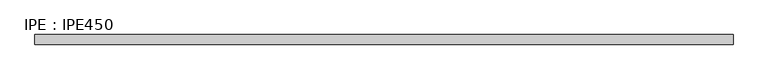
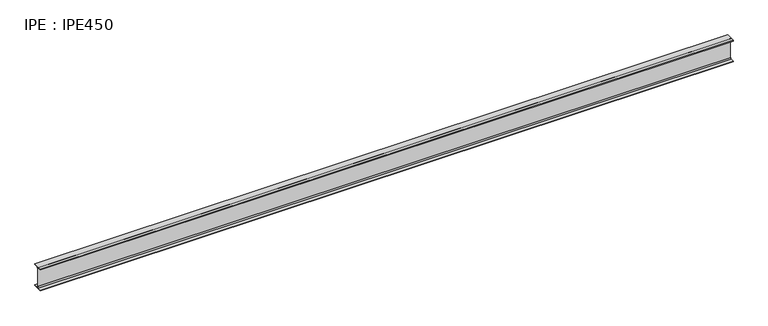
"""IFC4 building model written with IfcOpenShell, lengths in millimetres: beam geometry, IPE : IPE450."""

from ifc_helpers import new_model, si_unit, point, frame, frame_2d, origin, place, context, project, spatial, polyline, circle_curve, trimmed, segment, composite_curve, outline, extrude, source, transform, mapped, element, save


def ipe_ipe450_4b1b466d(model_context):
    return source(origin(), model_context, "Body", "SweptSolid", [
        extrude(outline(composite_curve([segment(polyline([(95.0, -210.4), (95.0, -225.0), (-95.0, -225.0), (-95.0, -210.4), (-25.7, -210.4)]), True, "CONTINUOUS"), segment(trimmed(circle_curve(frame_2d((-25.7, -189.4)), 21.0), [point((-25.7, -210.4))], [point((-4.7, -189.4))], True, "CARTESIAN"), True, "CONTINUOUS"), segment(polyline([(-4.7, -189.4), (-4.7, 189.4)]), True, "CONTINUOUS"), segment(trimmed(circle_curve(frame_2d((-25.7, 189.4)), 21.0), [point((-4.7, 189.4))], [point((-25.7, 210.4))], True, "CARTESIAN"), True, "CONTINUOUS"), segment(polyline([(-25.7, 210.4), (-95.0, 210.4), (-95.0, 225.0), (95.0, 225.0), (95.0, 210.4), (25.7, 210.4)]), True, "CONTINUOUS"), segment(trimmed(circle_curve(frame_2d((25.7, 189.4)), 21.0), [point((25.7, 210.4))], [point((4.7, 189.4))], True, "CARTESIAN"), True, "CONTINUOUS"), segment(polyline([(4.7, 189.4), (4.7, -189.4)]), True, "CONTINUOUS"), segment(trimmed(circle_curve(frame_2d((25.7, -189.4)), 21.0), [point((4.7, -189.4))], [point((25.7, -210.4))], True, "CARTESIAN"), True, "CONTINUOUS"), segment(polyline([(25.7, -210.4), (95.0, -210.4)]), True, "CONTINUOUS")], self_intersect=False)), frame((-6877.05, 0.0, 0.0), z_axis=(1.0, 0.0, 0.0), x_axis=(0.0, 1.0, 0.0)), (0.0, 0.0, 1.0), 13754.1),
    ])


if __name__ == "__main__":
    model = new_model("IFC4")
    model_context = context("Model", 3, world=origin())
    ifc_project = project(units=[si_unit("LENGTHUNIT", "METRE", prefix="MILLI")], contexts=[model_context])
    site = spatial("IfcSite", under=ifc_project)
    building = spatial("IfcBuilding", under=site)
    placement = place(None, origin())
    ipe_ipe450_shape = ipe_ipe450_4b1b466d(model_context)
    element("IfcBeam", 1, ObjectType="IPE : IPE450", at=placement, inside=building, context=model_context, shape_type="MappedRepresentation", body=[
        mapped(ipe_ipe450_shape, transform((0.0, 0.0, 0.0), x_axis=(1.0, 0.0, 0.0), y_axis=(0.0, 1.0, 0.0), z_axis=(0.0, 0.0, 1.0))),
    ])
    save(model, "model.ifc")
